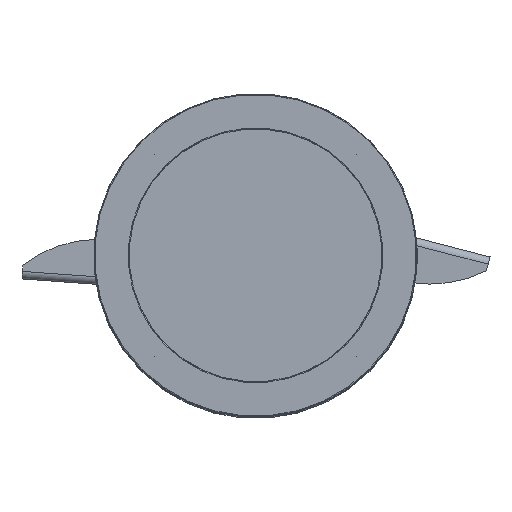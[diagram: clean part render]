
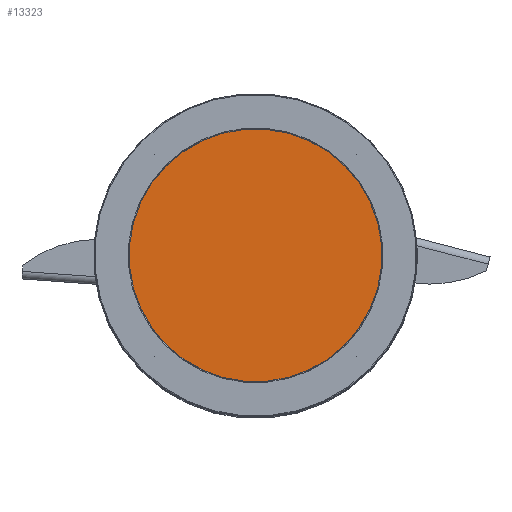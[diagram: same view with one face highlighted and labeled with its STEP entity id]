
A CAD part, top view. The second image highlights one B-rep face of the part: STEP entity #13323.
In plain terms, the highlighted planar face has unit normal (0, 0, 1).
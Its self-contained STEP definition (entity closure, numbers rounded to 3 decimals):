
#5861=ORIENTED_EDGE('',*,*,#7821,.T.);
#7821=EDGE_CURVE('',#9114,#9114,#9943,.F.);
#9114=VERTEX_POINT('',#26674);
#9943=CIRCLE('',#15229,53.2);
#11029=EDGE_LOOP('',(#5861));
#12184=FACE_BOUND('',#11029,.T.);
#12542=PLANE('',#15228);
#13323=ADVANCED_FACE('',(#12184),#12542,.F.);
#15228=AXIS2_PLACEMENT_3D('',#26672,#18824,#18825);
#15229=AXIS2_PLACEMENT_3D('',#26673,#18826,#18827);
#18824=DIRECTION('',(0.,0.,-1.));
#18825=DIRECTION('',(-1.,0.,0.));
#18826=DIRECTION('',(0.,0.,-1.));
#18827=DIRECTION('',(-1.,0.,0.));
#26672=CARTESIAN_POINT('',(0.,0.,3.));
#26673=CARTESIAN_POINT('',(0.,0.,3.));
#26674=CARTESIAN_POINT('',(-53.2,0.,3.));
